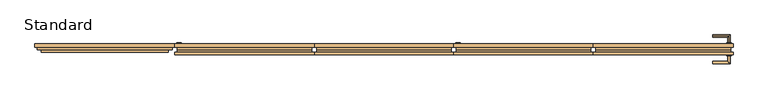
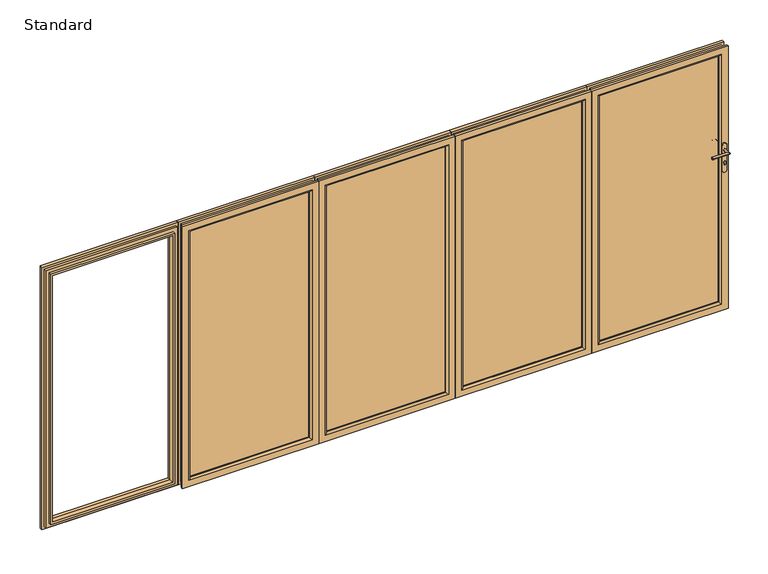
"""IFC4 building model written with IfcOpenShell, lengths in millimetres: door geometry, SMARTS_Visofold1000 : Standard."""

from ifc_helpers import new_model, si_unit, point, frame, frame_2d, origin, place, context, project, spatial, polyline, circle_curve, ellipse_curve, trimmed, segment, composite_curve, outline, extrude, faceted_brep, source, transform, mapped, element, save
from ifc_brep_helpers import plane_surface, cylinder_surface, advanced_brep


def standard_bf076061(model_context):
    return source(origin(), model_context, "Body", "SolidModel", [
        advanced_brep(
        [(2430.0, 75.0, 1232.5996413), (2430.0, 75.0, 1215.5996413), (2430.0, 130.0, 1232.5996413), (2430.0, 130.0, 1215.5996413), (2315.0, 130.0, 1232.5996413), (2315.0, 130.0, 1215.5996413)],
        [
            (0, 1, circle_curve(frame((2430.0, 75.0, 1224.0996413), z_axis=(0.0, -1.0, 0.0), x_axis=(0.0, 0.0, -1.0)), 8.5)),
            (1, 0, circle_curve(frame((2430.0, 75.0, 1224.0996413), z_axis=(0.0, -1.0, 0.0), x_axis=(0.0, 0.0, -1.0)), 8.5)),
            (0, 2),
            (2, 3, ellipse_curve(frame((2430.0, 130.0, 1224.0996413), z_axis=(0.7071067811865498, -0.7071067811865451, 0.0), x_axis=(-0.707106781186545, -0.70710678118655, 0.0)), 12.0208153, 8.5)),
            (3, 1),
            (3, 2, ellipse_curve(frame((2430.0, 130.0, 1224.0996413), z_axis=(0.7071067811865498, -0.7071067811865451, 0.0), x_axis=(-0.707106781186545, -0.70710678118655, 0.0)), 12.0208153, 8.5)),
            (4, 5, circle_curve(frame((2315.0, 130.0, 1224.0996413), z_axis=(-1.0, 0.0, 0.0), x_axis=(0.0, 0.0, -1.0)), 8.5)),
            (5, 4, circle_curve(frame((2315.0, 130.0, 1224.0996413), z_axis=(-1.0, 0.0, 0.0), x_axis=(0.0, 0.0, -1.0)), 8.5)),
            (2, 4),
            (5, 3),
        ],
        [
            plane_surface(frame((2430.0, 75.0, 1224.0996413), z_axis=(0.0, -1.0, 0.0), x_axis=(0.0, 0.0, -1.0))),
            cylinder_surface(frame((2430.0, 75.0, 1224.0996413), z_axis=(0.0, -1.0, 0.0), x_axis=(0.0, 0.0, -1.0)), 8.5),
            plane_surface(frame((2315.0, 130.0, 1224.0996413), z_axis=(-1.0, 0.0, 0.0), x_axis=(0.0, 0.0, -1.0))),
            cylinder_surface(frame((2430.0, 130.0, 1224.0996413), z_axis=(1.0, 0.0, 0.0), x_axis=(0.0, 0.0, -1.0)), 8.5),
        ],
        [
            (0, [[1, 2]]),
            (1, [[3, 4, 5, -1]]),
            (1, [[-5, 6, -3, -2]]),
            (2, [[7, 8]]),
            (3, [[9, -8, 10, -4]]),
            (3, [[-10, -7, -9, -6]]),
        ],
    ),
        extrude(outline(composite_curve([segment(polyline([(1258.0996413, 2414.0), (1070.0996413, 2414.0)]), True, "CONTINUOUS"), segment(trimmed(circle_curve(frame_2d((1070.0996413, 2430.0)), 16.0), [point((1070.0996413, 2414.0))], [point((1070.0996413, 2446.0))], False, "CARTESIAN"), True, "CONTINUOUS"), segment(polyline([(1070.0996413, 2446.0), (1258.0996413, 2446.0)]), True, "CONTINUOUS"), segment(trimmed(circle_curve(frame_2d((1258.0996413, 2430.0)), 16.0), [point((1258.0996413, 2446.0))], [point((1258.0996413, 2414.0))], False, "CARTESIAN"), True, "CONTINUOUS")], self_intersect=False)), frame((0.0, 75.0, 0.0), z_axis=(0.0, 1.0, 0.0), x_axis=(0.0, 0.0, 1.0)), (0.0, 0.0, 1.0), 10.0),
        advanced_brep(
        [(2421.5, 0.0, 1224.0996413), (2438.5, 0.0, 1224.0996413), (2438.5, -63.5, 1224.0996413), (2421.5, -46.5, 1224.0996413), (2315.0, -46.5, 1224.0996413), (2315.0, -63.5, 1224.0996413)],
        [
            (0, 1, circle_curve(frame((2430.0, 0.0, 1224.0996413), z_axis=(0.0, 1.0, 0.0), x_axis=(1.0, 0.0, 0.0)), 8.5)),
            (1, 0, circle_curve(frame((2430.0, 0.0, 1224.0996413), z_axis=(0.0, 1.0, 0.0), x_axis=(1.0, 0.0, 0.0)), 8.5)),
            (1, 2),
            (2, 3, ellipse_curve(frame((2430.0, -55.0, 1224.0996413), z_axis=(0.7071067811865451, 0.7071067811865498, 0.0), x_axis=(-0.7071067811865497, 0.7071067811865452, 0.0)), 12.0208153, 8.5)),
            (3, 0),
            (3, 2, ellipse_curve(frame((2430.0, -55.0, 1224.0996413), z_axis=(0.7071067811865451, 0.7071067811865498, 0.0), x_axis=(-0.7071067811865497, 0.7071067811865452, 0.0)), 12.0208153, 8.5)),
            (4, 5, circle_curve(frame((2315.0, -55.0, 1224.0996413), z_axis=(-1.0, 0.0, 0.0), x_axis=(0.0, -1.0, 0.0)), 8.5)),
            (5, 4, circle_curve(frame((2315.0, -55.0, 1224.0996413), z_axis=(-1.0, 0.0, 0.0), x_axis=(0.0, -1.0, 0.0)), 8.5)),
            (2, 5),
            (4, 3),
        ],
        [
            plane_surface(frame((2430.0, 0.0, 1224.0996413), z_axis=(0.0, 1.0, 0.0), x_axis=(0.0, 0.0, -1.0))),
            cylinder_surface(frame((2430.0, 0.0, 1224.0996413), z_axis=(0.0, 1.0, 0.0), x_axis=(1.0, 0.0, 0.0)), 8.5),
            plane_surface(frame((2315.0, -55.0, 1224.0996413), z_axis=(-1.0, 0.0, 0.0), x_axis=(0.0, 0.0, -1.0))),
            cylinder_surface(frame((2430.0, -55.0, 1224.0996413), z_axis=(1.0, 0.0, 0.0), x_axis=(0.0, -1.0, 0.0)), 8.5),
        ],
        [
            (0, [[1, 2]]),
            (1, [[3, 4, 5, -2]]),
            (1, [[-5, 6, -3, -1]]),
            (2, [[7, 8]]),
            (3, [[9, -7, 10, -4]]),
            (3, [[-10, -8, -9, -6]]),
        ],
    ),
        extrude(outline(composite_curve([segment(polyline([(1258.0996413, 2414.0), (1070.0996413, 2414.0)]), True, "CONTINUOUS"), segment(trimmed(circle_curve(frame_2d((1070.0996413, 2430.0)), 16.0), [point((1070.0996413, 2414.0))], [point((1070.0996413, 2446.0))], False, "CARTESIAN"), True, "CONTINUOUS"), segment(polyline([(1070.0996413, 2446.0), (1258.0996413, 2446.0)]), True, "CONTINUOUS"), segment(trimmed(circle_curve(frame_2d((1258.0996413, 2430.0)), 16.0), [point((1258.0996413, 2446.0))], [point((1258.0996413, 2414.0))], False, "CARTESIAN"), True, "CONTINUOUS")], self_intersect=False)), frame((0.0, -10.0, 0.0), z_axis=(0.0, 1.0, 0.0), x_axis=(0.0, 0.0, 1.0)), (0.0, 0.0, 1.0), 10.0),
        extrude(outline(composite_curve([segment(polyline([(1125.1769586, 2425.0106229), (1117.5996413, 2425.0106229)]), True, "CONTINUOUS"), segment(trimmed(circle_curve(frame_2d((1117.5996413, 2430.0106229)), 5.0), [point((1117.5996413, 2425.0106229))], [point((1117.5996413, 2435.0106229))], False, "CARTESIAN"), True, "CONTINUOUS"), segment(polyline([(1117.5996413, 2435.0106229), (1125.27562, 2435.0106229)]), True, "CONTINUOUS"), segment(trimmed(circle_curve(frame_2d((1132.0996413, 2429.9428094)), 8.5), [point((1125.27562, 2435.0106229))], [point((1125.1769586, 2425.0106229))], False, "CARTESIAN"), True, "CONTINUOUS")], self_intersect=False)), frame((0.0, 85.0, 0.0), z_axis=(0.0, 1.0, 0.0), x_axis=(0.0, 0.0, 1.0)), (0.0, 0.0, 1.0), 2.0),
        extrude(outline(composite_curve([segment(polyline([(1125.1769586, 2425.0106229), (1117.5996413, 2425.0106229)]), True, "CONTINUOUS"), segment(trimmed(circle_curve(frame_2d((1117.5996413, 2430.0106229)), 5.0), [point((1117.5996413, 2425.0106229))], [point((1117.5996413, 2435.0106229))], False, "CARTESIAN"), True, "CONTINUOUS"), segment(polyline([(1117.5996413, 2435.0106229), (1125.27562, 2435.0106229)]), True, "CONTINUOUS"), segment(trimmed(circle_curve(frame_2d((1132.0996413, 2429.9428094)), 8.5), [point((1125.27562, 2435.0106229))], [point((1125.1769586, 2425.0106229))], False, "CARTESIAN"), True, "CONTINUOUS")], self_intersect=False)), frame((0.0, -12.0, 0.0), z_axis=(0.0, 1.0, 0.0), x_axis=(0.0, 0.0, 1.0)), (0.0, 0.0, 1.0), 2.0),
        extrude(outline(polyline([(45.0, 2415.0), (1955.0, 2415.0), (1955.0, 1521.0), (45.0, 1521.0), (45.0, 2415.0)]), holes=[polyline([(1939.5, 2399.5), (60.5, 2399.5), (60.5, 1536.5), (1939.5, 1536.5), (1939.5, 2399.5)])]), frame((0.0, 17.4, 0.0), z_axis=(0.0, 1.0, 0.0), x_axis=(0.0, 0.0, 1.0)), (0.0, 0.0, 1.0), 35.0),
        faceted_brep([(2460.0, 74.4, 0.0), (2460.0, 74.4, 2000.0), (2460.0, 52.4, 2000.0), (2460.0, 52.4, 0.0), (2399.5, 52.4, 60.5), (2399.5, 52.4, 1939.5), (2399.5, 74.4, 1939.5), (2399.5, 74.4, 60.5), (1476.0, 74.4, 2000.0), (1476.0, 52.4, 2000.0), (1536.5, 52.4, 1939.5), (1536.5, 74.4, 1939.5), (1476.0, 74.4, 0.0), (1476.0, 52.4, 0.0), (1536.5, 52.4, 60.5), (1536.5, 74.4, 60.5), (2442.1308519, 34.8, 17.8691481), (2442.1308519, 34.8, 1982.1308519), (1493.8691481, 34.8, 1982.1308519), (1493.8691481, 34.8, 17.8691481), (2415.0, 34.8, 1955.0), (2415.0, 34.8, 45.0), (1521.0, 34.8, 45.0), (1521.0, 34.8, 1955.0), (2442.1308519, 52.4, 17.8691481), (2442.1308519, 52.4, 1982.1308519), (2415.0, 52.4, 1955.0), (2415.0, 52.4, 45.0), (1493.8691481, 52.4, 1982.1308519), (1521.0, 52.4, 1955.0), (1493.8691481, 52.4, 17.8691481), (1521.0, 52.4, 45.0)], [[[0, 1, 2, 3]], [[4, 5, 6, 7]], [[1, 8, 9, 2]], [[5, 10, 11, 6]], [[8, 12, 13, 9]], [[10, 14, 15, 11]], [[12, 0, 3, 13]], [[1, 0, 12, 8], [7, 6, 11, 15]], [[14, 4, 7, 15]], [[16, 17, 18, 19], [20, 21, 22, 23]], [[24, 25, 17, 16]], [[21, 20, 26, 27]], [[25, 28, 18, 17]], [[20, 23, 29, 26]], [[28, 30, 19, 18]], [[23, 22, 31, 29]], [[30, 24, 16, 19]], [[3, 2, 9, 13], [25, 24, 30, 28]], [[27, 26, 29, 31], [5, 4, 14, 10]], [[22, 21, 27, 31]]]),
        advanced_brep(
        [(2399.5, 13.3, 60.5), (2399.5, 13.3, 1939.5), (2399.5, 17.4, 1939.5), (2399.5, 17.4, 60.5), (2460.0, 17.4, 0.0), (2460.0, 17.4, 2000.0), (2460.0, 0.0, 2000.0), (2460.0, 0.0, 0.0), (1536.5, 13.3, 1939.5), (1536.5, 17.4, 1939.5), (1476.0, 17.4, 2000.0), (1476.0, 0.0, 2000.0), (1536.5, 13.3, 60.5), (1536.5, 17.4, 60.5), (1476.0, 17.4, 0.0), (1476.0, 0.0, 0.0), (2412.8, 0.0, 1952.8), (2412.8, 0.0, 47.2), (1523.2, 0.0, 47.2), (1523.2, 0.0, 1952.8), (2442.1308519, 34.8, 17.8691481), (2442.1308519, 34.8, 1982.1308519), (2442.1308519, 17.4, 1982.1308519), (2442.1308519, 17.4, 17.8691481), (1493.8691481, 34.8, 1982.1308519), (1493.8691481, 17.4, 1982.1308519), (1493.8691481, 34.8, 17.8691481), (1493.8691481, 17.4, 17.8691481), (2415.0, 17.4, 45.0), (2415.0, 17.4, 1955.0), (2415.0, 34.8, 1955.0), (2415.0, 34.8, 45.0), (1521.0, 17.4, 1955.0), (1521.0, 34.8, 1955.0), (1521.0, 17.4, 45.0), (1521.0, 34.8, 45.0)],
        [
            (0, 1),
            (1, 2),
            (2, 3),
            (3, 0),
            (4, 5),
            (5, 6),
            (6, 7),
            (7, 4),
            (1, 8),
            (8, 9),
            (9, 2),
            (5, 10),
            (10, 11),
            (11, 6),
            (8, 12),
            (12, 13),
            (13, 9),
            (10, 14),
            (14, 15),
            (15, 11),
            (12, 0),
            (3, 13),
            (15, 7),
            (16, 17),
            (17, 18),
            (18, 19),
            (19, 16),
            (14, 4),
            (16, 1, ellipse_curve(frame((2412.8, 13.3, 1952.8), z_axis=(0.7071067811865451, 0.0, -0.7071067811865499), x_axis=(-0.70710678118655, 0.0, -0.7071067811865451)), 18.8090404, 13.3)),
            (0, 17, ellipse_curve(frame((2412.8, 13.3, 47.2), z_axis=(0.70710678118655, 0.0, 0.707106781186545), x_axis=(0.707106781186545, 0.0, -0.7071067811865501)), 18.8090404, 13.3)),
            (19, 8, ellipse_curve(frame((1523.2, 13.3, 1952.8), z_axis=(0.70710678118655, 0.0, 0.707106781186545), x_axis=(0.707106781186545, 0.0, -0.7071067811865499)), 18.8090404, 13.3)),
            (18, 12, ellipse_curve(frame((1523.2, 13.3, 47.2), z_axis=(-0.7071067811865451, 0.0, 0.7071067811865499), x_axis=(0.70710678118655, 0.0, 0.7071067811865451)), 18.8090404, 13.3)),
            (20, 21),
            (21, 22),
            (22, 23),
            (23, 20),
            (21, 24),
            (24, 25),
            (25, 22),
            (24, 26),
            (26, 27),
            (27, 25),
            (27, 23),
            (26, 20),
            (28, 29),
            (29, 30),
            (30, 31),
            (31, 28),
            (29, 32),
            (32, 33),
            (33, 30),
            (32, 34),
            (34, 35),
            (35, 33),
            (34, 28),
            (31, 35),
        ],
        [
            plane_surface(frame((2399.5, 17.4, 60.5), z_axis=(-1.0, 0.0, 0.0), x_axis=(0.0, 0.0, 1.0))),
            plane_surface(frame((2460.0, 0.0, 0.0), z_axis=(1.0, 0.0, 0.0), x_axis=(0.0, 0.0, 1.0))),
            plane_surface(frame((2399.5, 17.4, 1939.5), z_axis=(0.0, 0.0, -1.0), x_axis=(-1.0, 0.0, 0.0))),
            plane_surface(frame((2460.0, 0.0, 2000.0), z_axis=(0.0, 0.0, 1.0), x_axis=(-1.0, 0.0, 0.0))),
            plane_surface(frame((1536.5, 17.4, 1939.5), z_axis=(1.0, 0.0, 0.0), x_axis=(0.0, 0.0, -1.0))),
            plane_surface(frame((1476.0, 0.0, 2000.0), z_axis=(-1.0, 0.0, 0.0), x_axis=(0.0, 0.0, -1.0))),
            plane_surface(frame((1536.5, 17.4, 60.5), z_axis=(0.0, 0.0, 1.0), x_axis=(1.0, 0.0, 0.0))),
            plane_surface(frame((1523.2, 0.0, 47.2), z_axis=(0.0, -1.0, 0.0), x_axis=(1.0, 0.0, 0.0))),
            plane_surface(frame((1476.0, 0.0, 0.0), z_axis=(0.0, 0.0, -1.0), x_axis=(1.0, 0.0, 0.0))),
            cylinder_surface(frame((2412.8, 13.3, 0.0), z_axis=(0.0, 0.0, -1.0), x_axis=(0.0, 1.0, 0.0)), 13.3),
            cylinder_surface(frame((2460.0, 13.3, 1952.8), z_axis=(1.0, 0.0, 0.0), x_axis=(0.0, 1.0, 0.0)), 13.3),
            cylinder_surface(frame((1523.2, 13.3, 2000.0), z_axis=(0.0, 0.0, 1.0), x_axis=(0.0, 1.0, 0.0)), 13.3),
            cylinder_surface(frame((1476.0, 13.3, 47.2), z_axis=(-1.0, 0.0, 0.0), x_axis=(0.0, 1.0, 0.0)), 13.3),
            plane_surface(frame((2442.1308519, 17.4, 17.8691481), z_axis=(1.0, 0.0, 0.0), x_axis=(0.0, 0.0, 1.0))),
            plane_surface(frame((2442.1308519, 17.4, 1982.1308519), z_axis=(0.0, 0.0, 1.0), x_axis=(-1.0, 0.0, 0.0))),
            plane_surface(frame((1493.8691481, 17.4, 1982.1308519), z_axis=(-1.0, 0.0, 0.0), x_axis=(0.0, 0.0, -1.0))),
            plane_surface(frame((1476.0, 17.4, 0.0), z_axis=(0.0, 1.0, 0.0), x_axis=(1.0, 0.0, 0.0))),
            plane_surface(frame((1493.8691481, 17.4, 17.8691481), z_axis=(0.0, 0.0, -1.0), x_axis=(1.0, 0.0, 0.0))),
            plane_surface(frame((2415.0, 34.8, 45.0), z_axis=(-1.0, 0.0, 0.0), x_axis=(0.0, 0.0, 1.0))),
            plane_surface(frame((2415.0, 34.8, 1955.0), z_axis=(0.0, 0.0, -1.0), x_axis=(-1.0, 0.0, 0.0))),
            plane_surface(frame((1521.0, 34.8, 1955.0), z_axis=(1.0, 0.0, 0.0), x_axis=(0.0, 0.0, -1.0))),
            plane_surface(frame((1521.0, 34.8, 45.0), z_axis=(0.0, 0.0, 1.0), x_axis=(1.0, 0.0, 0.0))),
            plane_surface(frame((1521.0, 17.4, 45.0), z_axis=(0.0, 1.0, 0.0), x_axis=(1.0, 0.0, 0.0))),
            plane_surface(frame((1493.8691481, 34.8, 17.8691481), z_axis=(0.0, 1.0, 0.0), x_axis=(1.0, 0.0, 0.0))),
        ],
        [
            (0, [[1, 2, 3, 4]]),
            (1, [[5, 6, 7, 8]]),
            (2, [[9, 10, 11, -2]]),
            (3, [[12, 13, 14, -6]]),
            (4, [[15, 16, 17, -10]]),
            (5, [[18, 19, 20, -13]]),
            (6, [[21, -4, 22, -16]]),
            (7, [[-7, -14, -20, 23], [24, 25, 26, 27]]),
            (8, [[28, -8, -23, -19]]),
            (9, [[-24, 29, -1, 30]]),
            (10, [[-27, 31, -9, -29]]),
            (11, [[-26, 32, -15, -31]]),
            (12, [[-25, -30, -21, -32]]),
            (13, [[33, 34, 35, 36]]),
            (14, [[37, 38, 39, -34]]),
            (15, [[40, 41, 42, -38]]),
            (16, [[-5, -28, -18, -12], [-35, -39, -42, 43]]),
            (17, [[44, -36, -43, -41]]),
            (18, [[45, 46, 47, 48]]),
            (19, [[49, 50, 51, -46]]),
            (20, [[52, 53, 54, -50]]),
            (21, [[55, -48, 56, -53]]),
            (22, [[-45, -55, -52, -49], [-3, -11, -17, -22]]),
            (23, [[-33, -44, -40, -37], [-47, -51, -54, -56]]),
        ],
    ),
        extrude(outline(polyline([(2399.5, 50.1484783), (2399.5, 21.4), (1536.5, 21.4), (1536.5, 50.1484783), (2399.5, 50.1484783)])), frame((0.0, 0.0, 60.5), z_axis=(0.0, 0.0, 1.0), x_axis=(1.0, 0.0, 0.0)), (0.0, 0.0, 1.0), 1879.0),
        extrude(outline(composite_curve([segment(trimmed(circle_curve(frame_2d((1228.0996413, 522.0)), 16.0), [point((1228.0996413, 538.0))], [point((1228.0996413, 506.0))], False, "CARTESIAN"), True, "CONTINUOUS"), segment(polyline([(1228.0996413, 506.0), (1040.0996413, 506.0)]), True, "CONTINUOUS"), segment(trimmed(circle_curve(frame_2d((1040.0996413, 522.0)), 16.0), [point((1040.0996413, 506.0))], [point((1040.0996413, 538.0))], False, "CARTESIAN"), True, "CONTINUOUS"), segment(polyline([(1040.0996413, 538.0), (1228.0996413, 538.0)]), True, "CONTINUOUS")], self_intersect=False)), frame((0.0, 75.0, 0.0), z_axis=(0.0, 1.0, 0.0), x_axis=(0.0, 0.0, 1.0)), (0.0, 0.0, 1.0), 10.0),
        extrude(outline(polyline([(45.0, 537.0), (45.0, 1431.0), (1955.0, 1431.0), (1955.0, 537.0), (45.0, 537.0)]), holes=[polyline([(1939.5, 552.5), (1939.5, 1415.5), (60.5, 1415.5), (60.5, 552.5), (1939.5, 552.5)])]), frame((0.0, 17.4, 0.0), z_axis=(0.0, 1.0, 0.0), x_axis=(0.0, 0.0, 1.0)), (0.0, 0.0, 1.0), 35.0),
        faceted_brep([(492.0, 74.4, 0.0), (492.0, 52.4, 0.0), (492.0, 52.4, 2000.0), (492.0, 74.4, 2000.0), (552.5, 52.4, 60.5), (552.5, 74.4, 60.5), (552.5, 74.4, 1939.5), (552.5, 52.4, 1939.5), (1476.0, 52.4, 2000.0), (1476.0, 74.4, 2000.0), (1415.5, 74.4, 1939.5), (1415.5, 52.4, 1939.5), (1476.0, 52.4, 0.0), (1476.0, 74.4, 0.0), (1415.5, 74.4, 60.5), (1415.5, 52.4, 60.5), (509.8691481, 34.8, 17.8691481), (1458.1308519, 34.8, 17.8691481), (1458.1308519, 34.8, 1982.1308519), (509.8691481, 34.8, 1982.1308519), (537.0, 34.8, 1955.0), (1431.0, 34.8, 1955.0), (1431.0, 34.8, 45.0), (537.0, 34.8, 45.0), (509.8691481, 52.4, 17.8691481), (509.8691481, 52.4, 1982.1308519), (537.0, 52.4, 45.0), (537.0, 52.4, 1955.0), (1458.1308519, 52.4, 1982.1308519), (1431.0, 52.4, 1955.0), (1458.1308519, 52.4, 17.8691481), (1431.0, 52.4, 45.0)], [[[0, 1, 2, 3]], [[4, 5, 6, 7]], [[3, 2, 8, 9]], [[7, 6, 10, 11]], [[9, 8, 12, 13]], [[11, 10, 14, 15]], [[13, 12, 1, 0]], [[3, 9, 13, 0], [5, 14, 10, 6]], [[15, 14, 5, 4]], [[16, 17, 18, 19], [20, 21, 22, 23]], [[24, 16, 19, 25]], [[23, 26, 27, 20]], [[25, 19, 18, 28]], [[20, 27, 29, 21]], [[28, 18, 17, 30]], [[21, 29, 31, 22]], [[30, 17, 16, 24]], [[1, 12, 8, 2], [25, 28, 30, 24]], [[26, 31, 29, 27], [7, 11, 15, 4]], [[22, 31, 26, 23]]]),
        advanced_brep(
        [(552.5, 13.3, 60.5), (552.5, 17.4, 60.5), (552.5, 17.4, 1939.5), (552.5, 13.3, 1939.5), (492.0, 17.4, 0.0), (492.0, 0.0, 0.0), (492.0, 0.0, 2000.0), (492.0, 17.4, 2000.0), (1415.5, 17.4, 1939.5), (1415.5, 13.3, 1939.5), (1476.0, 0.0, 2000.0), (1476.0, 17.4, 2000.0), (1415.5, 17.4, 60.5), (1415.5, 13.3, 60.5), (1476.0, 0.0, 0.0), (1476.0, 17.4, 0.0), (539.2, 0.0, 1952.8), (1428.8, 0.0, 1952.8), (1428.8, 0.0, 47.2), (539.2, 0.0, 47.2), (509.8691481, 34.8, 17.8691481), (509.8691481, 17.4, 17.8691481), (509.8691481, 17.4, 1982.1308519), (509.8691481, 34.8, 1982.1308519), (1458.1308519, 17.4, 1982.1308519), (1458.1308519, 34.8, 1982.1308519), (1458.1308519, 17.4, 17.8691481), (1458.1308519, 34.8, 17.8691481), (537.0, 17.4, 45.0), (537.0, 34.8, 45.0), (537.0, 34.8, 1955.0), (537.0, 17.4, 1955.0), (1431.0, 34.8, 1955.0), (1431.0, 17.4, 1955.0), (1431.0, 34.8, 45.0), (1431.0, 17.4, 45.0)],
        [
            (0, 1),
            (1, 2),
            (2, 3),
            (3, 0),
            (4, 5),
            (5, 6),
            (6, 7),
            (7, 4),
            (2, 8),
            (8, 9),
            (9, 3),
            (6, 10),
            (10, 11),
            (11, 7),
            (8, 12),
            (12, 13),
            (13, 9),
            (10, 14),
            (14, 15),
            (15, 11),
            (12, 1),
            (0, 13),
            (5, 14),
            (16, 17),
            (17, 18),
            (18, 19),
            (19, 16),
            (4, 15),
            (19, 0, ellipse_curve(frame((539.2, 13.3, 47.2), z_axis=(-0.70710678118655, 0.0, 0.707106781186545), x_axis=(-0.707106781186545, 0.0, -0.7071067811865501)), 18.8090404, 13.3)),
            (3, 16, ellipse_curve(frame((539.2, 13.3, 1952.8), z_axis=(-0.7071067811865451, 0.0, -0.7071067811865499), x_axis=(0.70710678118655, 0.0, -0.7071067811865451)), 18.8090404, 13.3)),
            (9, 17, ellipse_curve(frame((1428.8, 13.3, 1952.8), z_axis=(-0.70710678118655, 0.0, 0.707106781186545), x_axis=(-0.707106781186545, 0.0, -0.7071067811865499)), 18.8090404, 13.3)),
            (13, 18, ellipse_curve(frame((1428.8, 13.3, 47.2), z_axis=(0.7071067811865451, 0.0, 0.7071067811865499), x_axis=(-0.70710678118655, 0.0, 0.7071067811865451)), 18.8090404, 13.3)),
            (20, 21),
            (21, 22),
            (22, 23),
            (23, 20),
            (22, 24),
            (24, 25),
            (25, 23),
            (24, 26),
            (26, 27),
            (27, 25),
            (21, 26),
            (20, 27),
            (28, 29),
            (29, 30),
            (30, 31),
            (31, 28),
            (30, 32),
            (32, 33),
            (33, 31),
            (32, 34),
            (34, 35),
            (35, 33),
            (34, 29),
            (28, 35),
        ],
        [
            plane_surface(frame((552.5, 17.4, 60.5), z_axis=(1.0, 0.0, 0.0), x_axis=(0.0, 0.0, 1.0))),
            plane_surface(frame((492.0, 0.0, 0.0), z_axis=(-1.0, 0.0, 0.0), x_axis=(0.0, 0.0, 1.0))),
            plane_surface(frame((552.5, 17.4, 1939.5), z_axis=(0.0, 0.0, -1.0), x_axis=(1.0, 0.0, 0.0))),
            plane_surface(frame((492.0, 0.0, 2000.0), z_axis=(0.0, 0.0, 1.0), x_axis=(1.0, 0.0, 0.0))),
            plane_surface(frame((1415.5, 17.4, 1939.5), z_axis=(-1.0, 0.0, 0.0), x_axis=(0.0, 0.0, -1.0))),
            plane_surface(frame((1476.0, 0.0, 2000.0), z_axis=(1.0, 0.0, 0.0), x_axis=(0.0, 0.0, -1.0))),
            plane_surface(frame((1415.5, 17.4, 60.5), z_axis=(0.0, 0.0, 1.0), x_axis=(-1.0, 0.0, 0.0))),
            plane_surface(frame((1428.8, 0.0, 47.2), z_axis=(0.0, -1.0, 0.0), x_axis=(-1.0, 0.0, 0.0))),
            plane_surface(frame((1476.0, 0.0, 0.0), z_axis=(0.0, 0.0, -1.0), x_axis=(-1.0, 0.0, 0.0))),
            cylinder_surface(frame((539.2, 13.3, 0.0), z_axis=(0.0, 0.0, -1.0), x_axis=(0.0, 1.0, 0.0)), 13.3),
            cylinder_surface(frame((492.0, 13.3, 1952.8), z_axis=(-1.0, 0.0, 0.0), x_axis=(0.0, 1.0, 0.0)), 13.3),
            cylinder_surface(frame((1428.8, 13.3, 2000.0), z_axis=(0.0, 0.0, 1.0), x_axis=(0.0, 1.0, 0.0)), 13.3),
            cylinder_surface(frame((1476.0, 13.3, 47.2), z_axis=(1.0, 0.0, 0.0), x_axis=(0.0, 1.0, 0.0)), 13.3),
            plane_surface(frame((509.8691481, 17.4, 17.8691481), z_axis=(-1.0, 0.0, 0.0), x_axis=(0.0, 0.0, 1.0))),
            plane_surface(frame((509.8691481, 17.4, 1982.1308519), z_axis=(0.0, 0.0, 1.0), x_axis=(1.0, 0.0, 0.0))),
            plane_surface(frame((1458.1308519, 17.4, 1982.1308519), z_axis=(1.0, 0.0, 0.0), x_axis=(0.0, 0.0, -1.0))),
            plane_surface(frame((1476.0, 17.4, 0.0), z_axis=(0.0, 1.0, 0.0), x_axis=(-1.0, 0.0, 0.0))),
            plane_surface(frame((1458.1308519, 17.4, 17.8691481), z_axis=(0.0, 0.0, -1.0), x_axis=(-1.0, 0.0, 0.0))),
            plane_surface(frame((537.0, 34.8, 45.0), z_axis=(1.0, 0.0, 0.0), x_axis=(0.0, 0.0, 1.0))),
            plane_surface(frame((537.0, 34.8, 1955.0), z_axis=(0.0, 0.0, -1.0), x_axis=(1.0, 0.0, 0.0))),
            plane_surface(frame((1431.0, 34.8, 1955.0), z_axis=(-1.0, 0.0, 0.0), x_axis=(0.0, 0.0, -1.0))),
            plane_surface(frame((1431.0, 34.8, 45.0), z_axis=(0.0, 0.0, 1.0), x_axis=(-1.0, 0.0, 0.0))),
            plane_surface(frame((1431.0, 17.4, 45.0), z_axis=(0.0, 1.0, 0.0), x_axis=(-1.0, 0.0, 0.0))),
            plane_surface(frame((1458.1308519, 34.8, 17.8691481), z_axis=(0.0, 1.0, 0.0), x_axis=(-1.0, 0.0, 0.0))),
        ],
        [
            (0, [[1, 2, 3, 4]]),
            (1, [[5, 6, 7, 8]]),
            (2, [[-3, 9, 10, 11]]),
            (3, [[-7, 12, 13, 14]]),
            (4, [[-10, 15, 16, 17]]),
            (5, [[-13, 18, 19, 20]]),
            (6, [[-16, 21, -1, 22]]),
            (7, [[23, -18, -12, -6], [24, 25, 26, 27]]),
            (8, [[-19, -23, -5, 28]]),
            (9, [[29, -4, 30, -27]]),
            (10, [[-30, -11, 31, -24]]),
            (11, [[-31, -17, 32, -25]]),
            (12, [[-32, -22, -29, -26]]),
            (13, [[33, 34, 35, 36]]),
            (14, [[-35, 37, 38, 39]]),
            (15, [[-38, 40, 41, 42]]),
            (16, [[-14, -20, -28, -8], [43, -40, -37, -34]]),
            (17, [[-41, -43, -33, 44]]),
            (18, [[45, 46, 47, 48]]),
            (19, [[-47, 49, 50, 51]]),
            (20, [[-50, 52, 53, 54]]),
            (21, [[-53, 55, -45, 56]]),
            (22, [[-51, -54, -56, -48], [-21, -15, -9, -2]]),
            (23, [[-39, -42, -44, -36], [-55, -52, -49, -46]]),
        ],
    ),
        extrude(outline(polyline([(552.5, 50.1484783), (1415.5, 50.1484783), (1415.5, 21.4), (552.5, 21.4), (552.5, 50.1484783)])), frame((0.0, 0.0, 60.5), z_axis=(0.0, 0.0, 1.0), x_axis=(1.0, 0.0, 0.0)), (0.0, 0.0, 1.0), 1879.0),
        extrude(outline(composite_curve([segment(trimmed(circle_curve(frame_2d((1228.0996413, -1446.0)), 16.0), [point((1228.0996413, -1430.0))], [point((1228.0996413, -1462.0))], False, "CARTESIAN"), True, "CONTINUOUS"), segment(polyline([(1228.0996413, -1462.0), (1040.0996413, -1462.0)]), True, "CONTINUOUS"), segment(trimmed(circle_curve(frame_2d((1040.0996413, -1446.0)), 16.0), [point((1040.0996413, -1462.0))], [point((1040.0996413, -1430.0))], False, "CARTESIAN"), True, "CONTINUOUS"), segment(polyline([(1040.0996413, -1430.0), (1228.0996413, -1430.0)]), True, "CONTINUOUS")], self_intersect=False)), frame((0.0, 75.0, 0.0), z_axis=(0.0, 1.0, 0.0), x_axis=(0.0, 0.0, 1.0)), (0.0, 0.0, 1.0), 10.0),
        extrude(outline(polyline([(45.0, -1431.0), (45.0, -537.0), (1955.0, -537.0), (1955.0, -1431.0), (45.0, -1431.0)]), holes=[polyline([(1939.5, -1415.5), (1939.5, -552.5), (60.5, -552.5), (60.5, -1415.5), (1939.5, -1415.5)])]), frame((0.0, 17.4, 0.0), z_axis=(0.0, 1.0, 0.0), x_axis=(0.0, 0.0, 1.0)), (0.0, 0.0, 1.0), 35.0),
        faceted_brep([(-1476.0, 74.4, 0.0), (-1476.0, 52.4, 0.0), (-1476.0, 52.4, 2000.0), (-1476.0, 74.4, 2000.0), (-1415.5, 52.4, 60.5), (-1415.5, 74.4, 60.5), (-1415.5, 74.4, 1939.5), (-1415.5, 52.4, 1939.5), (-492.0, 52.4, 2000.0), (-492.0, 74.4, 2000.0), (-552.5, 74.4, 1939.5), (-552.5, 52.4, 1939.5), (-492.0, 52.4, 0.0), (-492.0, 74.4, 0.0), (-552.5, 74.4, 60.5), (-552.5, 52.4, 60.5), (-1458.1308519, 34.8, 17.8691481), (-509.8691481, 34.8, 17.8691481), (-509.8691481, 34.8, 1982.1308519), (-1458.1308519, 34.8, 1982.1308519), (-1431.0, 34.8, 1955.0), (-537.0, 34.8, 1955.0), (-537.0, 34.8, 45.0), (-1431.0, 34.8, 45.0), (-1458.1308519, 52.4, 17.8691481), (-1458.1308519, 52.4, 1982.1308519), (-1431.0, 52.4, 45.0), (-1431.0, 52.4, 1955.0), (-509.8691481, 52.4, 1982.1308519), (-537.0, 52.4, 1955.0), (-509.8691481, 52.4, 17.8691481), (-537.0, 52.4, 45.0)], [[[0, 1, 2, 3]], [[4, 5, 6, 7]], [[3, 2, 8, 9]], [[7, 6, 10, 11]], [[9, 8, 12, 13]], [[11, 10, 14, 15]], [[13, 12, 1, 0]], [[3, 9, 13, 0], [5, 14, 10, 6]], [[15, 14, 5, 4]], [[16, 17, 18, 19], [20, 21, 22, 23]], [[24, 16, 19, 25]], [[23, 26, 27, 20]], [[25, 19, 18, 28]], [[20, 27, 29, 21]], [[28, 18, 17, 30]], [[21, 29, 31, 22]], [[30, 17, 16, 24]], [[1, 12, 8, 2], [25, 28, 30, 24]], [[26, 31, 29, 27], [7, 11, 15, 4]], [[22, 31, 26, 23]]]),
        advanced_brep(
        [(-1415.5, 13.3, 60.5), (-1415.5, 17.4, 60.5), (-1415.5, 17.4, 1939.5), (-1415.5, 13.3, 1939.5), (-1476.0, 17.4, 0.0), (-1476.0, 0.0, 0.0), (-1476.0, 0.0, 2000.0), (-1476.0, 17.4, 2000.0), (-552.5, 17.4, 1939.5), (-552.5, 13.3, 1939.5), (-492.0, 0.0, 2000.0), (-492.0, 17.4, 2000.0), (-552.5, 17.4, 60.5), (-552.5, 13.3, 60.5), (-492.0, 0.0, 0.0), (-492.0, 17.4, 0.0), (-1428.8, 0.0, 1952.8), (-539.2, 0.0, 1952.8), (-539.2, 0.0, 47.2), (-1428.8, 0.0, 47.2), (-1458.1308519, 34.8, 17.8691481), (-1458.1308519, 17.4, 17.8691481), (-1458.1308519, 17.4, 1982.1308519), (-1458.1308519, 34.8, 1982.1308519), (-509.8691481, 17.4, 1982.1308519), (-509.8691481, 34.8, 1982.1308519), (-509.8691481, 17.4, 17.8691481), (-509.8691481, 34.8, 17.8691481), (-1431.0, 17.4, 45.0), (-1431.0, 34.8, 45.0), (-1431.0, 34.8, 1955.0), (-1431.0, 17.4, 1955.0), (-537.0, 34.8, 1955.0), (-537.0, 17.4, 1955.0), (-537.0, 34.8, 45.0), (-537.0, 17.4, 45.0)],
        [
            (0, 1),
            (1, 2),
            (2, 3),
            (3, 0),
            (4, 5),
            (5, 6),
            (6, 7),
            (7, 4),
            (2, 8),
            (8, 9),
            (9, 3),
            (6, 10),
            (10, 11),
            (11, 7),
            (8, 12),
            (12, 13),
            (13, 9),
            (10, 14),
            (14, 15),
            (15, 11),
            (12, 1),
            (0, 13),
            (5, 14),
            (16, 17),
            (17, 18),
            (18, 19),
            (19, 16),
            (4, 15),
            (19, 0, ellipse_curve(frame((-1428.8, 13.3, 47.2), z_axis=(-0.70710678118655, 0.0, 0.707106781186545), x_axis=(-0.707106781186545, 0.0, -0.7071067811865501)), 18.8090404, 13.3)),
            (3, 16, ellipse_curve(frame((-1428.8, 13.3, 1952.8), z_axis=(-0.7071067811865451, 0.0, -0.7071067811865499), x_axis=(0.70710678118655, 0.0, -0.7071067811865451)), 18.8090404, 13.3)),
            (9, 17, ellipse_curve(frame((-539.2, 13.3, 1952.8), z_axis=(-0.70710678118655, 0.0, 0.707106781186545), x_axis=(-0.707106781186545, 0.0, -0.7071067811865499)), 18.8090404, 13.3)),
            (13, 18, ellipse_curve(frame((-539.2, 13.3, 47.2), z_axis=(0.7071067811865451, 0.0, 0.7071067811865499), x_axis=(-0.70710678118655, 0.0, 0.7071067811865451)), 18.8090404, 13.3)),
            (20, 21),
            (21, 22),
            (22, 23),
            (23, 20),
            (22, 24),
            (24, 25),
            (25, 23),
            (24, 26),
            (26, 27),
            (27, 25),
            (21, 26),
            (20, 27),
            (28, 29),
            (29, 30),
            (30, 31),
            (31, 28),
            (30, 32),
            (32, 33),
            (33, 31),
            (32, 34),
            (34, 35),
            (35, 33),
            (34, 29),
            (28, 35),
        ],
        [
            plane_surface(frame((-1415.5, 17.4, 60.5), z_axis=(1.0, 0.0, 0.0), x_axis=(0.0, 0.0, 1.0))),
            plane_surface(frame((-1476.0, 0.0, 0.0), z_axis=(-1.0, 0.0, 0.0), x_axis=(0.0, 0.0, 1.0))),
            plane_surface(frame((-1415.5, 17.4, 1939.5), z_axis=(0.0, 0.0, -1.0), x_axis=(1.0, 0.0, 0.0))),
            plane_surface(frame((-1476.0, 0.0, 2000.0), z_axis=(0.0, 0.0, 1.0), x_axis=(1.0, 0.0, 0.0))),
            plane_surface(frame((-552.5, 17.4, 1939.5), z_axis=(-1.0, 0.0, 0.0), x_axis=(0.0, 0.0, -1.0))),
            plane_surface(frame((-492.0, 0.0, 2000.0), z_axis=(1.0, 0.0, 0.0), x_axis=(0.0, 0.0, -1.0))),
            plane_surface(frame((-552.5, 17.4, 60.5), z_axis=(0.0, 0.0, 1.0), x_axis=(-1.0, 0.0, 0.0))),
            plane_surface(frame((-539.2, 0.0, 47.2), z_axis=(0.0, -1.0, 0.0), x_axis=(-1.0, 0.0, 0.0))),
            plane_surface(frame((-492.0, 0.0, 0.0), z_axis=(0.0, 0.0, -1.0), x_axis=(-1.0, 0.0, 0.0))),
            cylinder_surface(frame((-1428.8, 13.3, 0.0), z_axis=(0.0, 0.0, -1.0), x_axis=(0.0, 1.0, 0.0)), 13.3),
            cylinder_surface(frame((-1476.0, 13.3, 1952.8), z_axis=(-1.0, 0.0, 0.0), x_axis=(0.0, 1.0, 0.0)), 13.3),
            cylinder_surface(frame((-539.2, 13.3, 2000.0), z_axis=(0.0, 0.0, 1.0), x_axis=(0.0, 1.0, 0.0)), 13.3),
            cylinder_surface(frame((-492.0, 13.3, 47.2), z_axis=(1.0, 0.0, 0.0), x_axis=(0.0, 1.0, 0.0)), 13.3),
            plane_surface(frame((-1458.1308519, 17.4, 17.8691481), z_axis=(-1.0, 0.0, 0.0), x_axis=(0.0, 0.0, 1.0))),
            plane_surface(frame((-1458.1308519, 17.4, 1982.1308519), z_axis=(0.0, 0.0, 1.0), x_axis=(1.0, 0.0, 0.0))),
            plane_surface(frame((-509.8691481, 17.4, 1982.1308519), z_axis=(1.0, 0.0, 0.0), x_axis=(0.0, 0.0, -1.0))),
            plane_surface(frame((-492.0, 17.4, 0.0), z_axis=(0.0, 1.0, 0.0), x_axis=(-1.0, 0.0, 0.0))),
            plane_surface(frame((-509.8691481, 17.4, 17.8691481), z_axis=(0.0, 0.0, -1.0), x_axis=(-1.0, 0.0, 0.0))),
            plane_surface(frame((-1431.0, 34.8, 45.0), z_axis=(1.0, 0.0, 0.0), x_axis=(0.0, 0.0, 1.0))),
            plane_surface(frame((-1431.0, 34.8, 1955.0), z_axis=(0.0, 0.0, -1.0), x_axis=(1.0, 0.0, 0.0))),
            plane_surface(frame((-537.0, 34.8, 1955.0), z_axis=(-1.0, 0.0, 0.0), x_axis=(0.0, 0.0, -1.0))),
            plane_surface(frame((-537.0, 34.8, 45.0), z_axis=(0.0, 0.0, 1.0), x_axis=(-1.0, 0.0, 0.0))),
            plane_surface(frame((-537.0, 17.4, 45.0), z_axis=(0.0, 1.0, 0.0), x_axis=(-1.0, 0.0, 0.0))),
            plane_surface(frame((-509.8691481, 34.8, 17.8691481), z_axis=(0.0, 1.0, 0.0), x_axis=(-1.0, 0.0, 0.0))),
        ],
        [
            (0, [[1, 2, 3, 4]]),
            (1, [[5, 6, 7, 8]]),
            (2, [[-3, 9, 10, 11]]),
            (3, [[-7, 12, 13, 14]]),
            (4, [[-10, 15, 16, 17]]),
            (5, [[-13, 18, 19, 20]]),
            (6, [[-16, 21, -1, 22]]),
            (7, [[23, -18, -12, -6], [24, 25, 26, 27]]),
            (8, [[-19, -23, -5, 28]]),
            (9, [[29, -4, 30, -27]]),
            (10, [[-30, -11, 31, -24]]),
            (11, [[-31, -17, 32, -25]]),
            (12, [[-32, -22, -29, -26]]),
            (13, [[33, 34, 35, 36]]),
            (14, [[-35, 37, 38, 39]]),
            (15, [[-38, 40, 41, 42]]),
            (16, [[-14, -20, -28, -8], [43, -40, -37, -34]]),
            (17, [[-41, -43, -33, 44]]),
            (18, [[45, 46, 47, 48]]),
            (19, [[-47, 49, 50, 51]]),
            (20, [[-50, 52, 53, 54]]),
            (21, [[-53, 55, -45, 56]]),
            (22, [[-51, -54, -56, -48], [-21, -15, -9, -2]]),
            (23, [[-39, -42, -44, -36], [-55, -52, -49, -46]]),
        ],
    ),
        extrude(outline(polyline([(-1415.5, 50.1484783), (-552.5, 50.1484783), (-552.5, 21.4), (-1415.5, 21.4), (-1415.5, 50.1484783)])), frame((0.0, 0.0, 60.5), z_axis=(0.0, 0.0, 1.0), x_axis=(1.0, 0.0, 0.0)), (0.0, 0.0, 1.0), 1879.0),
        extrude(outline(polyline([(45.0, 447.0), (1955.0, 447.0), (1955.0, -447.0), (45.0, -447.0), (45.0, 447.0)]), holes=[polyline([(1939.5, 431.5), (60.5, 431.5), (60.5, -431.5), (1939.5, -431.5), (1939.5, 431.5)])]), frame((0.0, 17.4, 0.0), z_axis=(0.0, 1.0, 0.0), x_axis=(0.0, 0.0, 1.0)), (0.0, 0.0, 1.0), 35.0),
        faceted_brep([(492.0, 74.4, 0.0), (492.0, 74.4, 2000.0), (492.0, 52.4, 2000.0), (492.0, 52.4, 0.0), (431.5, 52.4, 60.5), (431.5, 52.4, 1939.5), (431.5, 74.4, 1939.5), (431.5, 74.4, 60.5), (-492.0, 74.4, 2000.0), (-492.0, 52.4, 2000.0), (-431.5, 52.4, 1939.5), (-431.5, 74.4, 1939.5), (-492.0, 74.4, 0.0), (-492.0, 52.4, 0.0), (-431.5, 52.4, 60.5), (-431.5, 74.4, 60.5), (474.1308519, 34.8, 17.8691481), (474.1308519, 34.8, 1982.1308519), (-474.1308519, 34.8, 1982.1308519), (-474.1308519, 34.8, 17.8691481), (447.0, 34.8, 1955.0), (447.0, 34.8, 45.0), (-447.0, 34.8, 45.0), (-447.0, 34.8, 1955.0), (474.1308519, 52.4, 17.8691481), (474.1308519, 52.4, 1982.1308519), (447.0, 52.4, 1955.0), (447.0, 52.4, 45.0), (-474.1308519, 52.4, 1982.1308519), (-447.0, 52.4, 1955.0), (-474.1308519, 52.4, 17.8691481), (-447.0, 52.4, 45.0)], [[[0, 1, 2, 3]], [[4, 5, 6, 7]], [[1, 8, 9, 2]], [[5, 10, 11, 6]], [[8, 12, 13, 9]], [[10, 14, 15, 11]], [[12, 0, 3, 13]], [[1, 0, 12, 8], [7, 6, 11, 15]], [[14, 4, 7, 15]], [[16, 17, 18, 19], [20, 21, 22, 23]], [[24, 25, 17, 16]], [[21, 20, 26, 27]], [[25, 28, 18, 17]], [[20, 23, 29, 26]], [[28, 30, 19, 18]], [[23, 22, 31, 29]], [[30, 24, 16, 19]], [[3, 2, 9, 13], [25, 24, 30, 28]], [[27, 26, 29, 31], [5, 4, 14, 10]], [[22, 21, 27, 31]]]),
        advanced_brep(
        [(431.5, 13.3, 60.5), (431.5, 13.3, 1939.5), (431.5, 17.4, 1939.5), (431.5, 17.4, 60.5), (492.0, 17.4, 0.0), (492.0, 17.4, 2000.0), (492.0, 0.0, 2000.0), (492.0, 0.0, 0.0), (-431.5, 13.3, 1939.5), (-431.5, 17.4, 1939.5), (-492.0, 17.4, 2000.0), (-492.0, 0.0, 2000.0), (-431.5, 13.3, 60.5), (-431.5, 17.4, 60.5), (-492.0, 17.4, 0.0), (-492.0, 0.0, 0.0), (444.8, 0.0, 1952.8), (444.8, 0.0, 47.2), (-444.8, 0.0, 47.2), (-444.8, 0.0, 1952.8), (474.1308519, 34.8, 17.8691481), (474.1308519, 34.8, 1982.1308519), (474.1308519, 17.4, 1982.1308519), (474.1308519, 17.4, 17.8691481), (-474.1308519, 34.8, 1982.1308519), (-474.1308519, 17.4, 1982.1308519), (-474.1308519, 34.8, 17.8691481), (-474.1308519, 17.4, 17.8691481), (447.0, 17.4, 45.0), (447.0, 17.4, 1955.0), (447.0, 34.8, 1955.0), (447.0, 34.8, 45.0), (-447.0, 17.4, 1955.0), (-447.0, 34.8, 1955.0), (-447.0, 17.4, 45.0), (-447.0, 34.8, 45.0)],
        [
            (0, 1),
            (1, 2),
            (2, 3),
            (3, 0),
            (4, 5),
            (5, 6),
            (6, 7),
            (7, 4),
            (1, 8),
            (8, 9),
            (9, 2),
            (5, 10),
            (10, 11),
            (11, 6),
            (8, 12),
            (12, 13),
            (13, 9),
            (10, 14),
            (14, 15),
            (15, 11),
            (12, 0),
            (3, 13),
            (15, 7),
            (16, 17),
            (17, 18),
            (18, 19),
            (19, 16),
            (14, 4),
            (16, 1, ellipse_curve(frame((444.8, 13.3, 1952.8), z_axis=(0.7071067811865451, 0.0, -0.7071067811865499), x_axis=(-0.70710678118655, 0.0, -0.7071067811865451)), 18.8090404, 13.3)),
            (0, 17, ellipse_curve(frame((444.8, 13.3, 47.2), z_axis=(0.70710678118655, 0.0, 0.707106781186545), x_axis=(0.707106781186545, 0.0, -0.7071067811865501)), 18.8090404, 13.3)),
            (19, 8, ellipse_curve(frame((-444.8, 13.3, 1952.8), z_axis=(0.70710678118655, 0.0, 0.707106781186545), x_axis=(0.707106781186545, 0.0, -0.7071067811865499)), 18.8090404, 13.3)),
            (18, 12, ellipse_curve(frame((-444.8, 13.3, 47.2), z_axis=(-0.7071067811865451, 0.0, 0.7071067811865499), x_axis=(0.70710678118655, 0.0, 0.7071067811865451)), 18.8090404, 13.3)),
            (20, 21),
            (21, 22),
            (22, 23),
            (23, 20),
            (21, 24),
            (24, 25),
            (25, 22),
            (24, 26),
            (26, 27),
            (27, 25),
            (27, 23),
            (26, 20),
            (28, 29),
            (29, 30),
            (30, 31),
            (31, 28),
            (29, 32),
            (32, 33),
            (33, 30),
            (32, 34),
            (34, 35),
            (35, 33),
            (34, 28),
            (31, 35),
        ],
        [
            plane_surface(frame((431.5, 17.4, 60.5), z_axis=(-1.0, 0.0, 0.0), x_axis=(0.0, 0.0, 1.0))),
            plane_surface(frame((492.0, 0.0, 0.0), z_axis=(1.0, 0.0, 0.0), x_axis=(0.0, 0.0, 1.0))),
            plane_surface(frame((431.5, 17.4, 1939.5), z_axis=(0.0, 0.0, -1.0), x_axis=(-1.0, 0.0, 0.0))),
            plane_surface(frame((492.0, 0.0, 2000.0), z_axis=(0.0, 0.0, 1.0), x_axis=(-1.0, 0.0, 0.0))),
            plane_surface(frame((-431.5, 17.4, 1939.5), z_axis=(1.0, 0.0, 0.0), x_axis=(0.0, 0.0, -1.0))),
            plane_surface(frame((-492.0, 0.0, 2000.0), z_axis=(-1.0, 0.0, 0.0), x_axis=(0.0, 0.0, -1.0))),
            plane_surface(frame((-431.5, 17.4, 60.5), z_axis=(0.0, 0.0, 1.0), x_axis=(1.0, 0.0, 0.0))),
            plane_surface(frame((-444.8, 0.0, 47.2), z_axis=(0.0, -1.0, 0.0), x_axis=(1.0, 0.0, 0.0))),
            plane_surface(frame((-492.0, 0.0, 0.0), z_axis=(0.0, 0.0, -1.0), x_axis=(1.0, 0.0, 0.0))),
            cylinder_surface(frame((444.8, 13.3, 0.0), z_axis=(0.0, 0.0, -1.0), x_axis=(0.0, 1.0, 0.0)), 13.3),
            cylinder_surface(frame((492.0, 13.3, 1952.8), z_axis=(1.0, 0.0, 0.0), x_axis=(0.0, 1.0, 0.0)), 13.3),
            cylinder_surface(frame((-444.8, 13.3, 2000.0), z_axis=(0.0, 0.0, 1.0), x_axis=(0.0, 1.0, 0.0)), 13.3),
            cylinder_surface(frame((-492.0, 13.3, 47.2), z_axis=(-1.0, 0.0, 0.0), x_axis=(0.0, 1.0, 0.0)), 13.3),
            plane_surface(frame((474.1308519, 17.4, 17.8691481), z_axis=(1.0, 0.0, 0.0), x_axis=(0.0, 0.0, 1.0))),
            plane_surface(frame((474.1308519, 17.4, 1982.1308519), z_axis=(0.0, 0.0, 1.0), x_axis=(-1.0, 0.0, 0.0))),
            plane_surface(frame((-474.1308519, 17.4, 1982.1308519), z_axis=(-1.0, 0.0, 0.0), x_axis=(0.0, 0.0, -1.0))),
            plane_surface(frame((-492.0, 17.4, 0.0), z_axis=(0.0, 1.0, 0.0), x_axis=(1.0, 0.0, 0.0))),
            plane_surface(frame((-474.1308519, 17.4, 17.8691481), z_axis=(0.0, 0.0, -1.0), x_axis=(1.0, 0.0, 0.0))),
            plane_surface(frame((447.0, 34.8, 45.0), z_axis=(-1.0, 0.0, 0.0), x_axis=(0.0, 0.0, 1.0))),
            plane_surface(frame((447.0, 34.8, 1955.0), z_axis=(0.0, 0.0, -1.0), x_axis=(-1.0, 0.0, 0.0))),
            plane_surface(frame((-447.0, 34.8, 1955.0), z_axis=(1.0, 0.0, 0.0), x_axis=(0.0, 0.0, -1.0))),
            plane_surface(frame((-447.0, 34.8, 45.0), z_axis=(0.0, 0.0, 1.0), x_axis=(1.0, 0.0, 0.0))),
            plane_surface(frame((-447.0, 17.4, 45.0), z_axis=(0.0, 1.0, 0.0), x_axis=(1.0, 0.0, 0.0))),
            plane_surface(frame((-474.1308519, 34.8, 17.8691481), z_axis=(0.0, 1.0, 0.0), x_axis=(1.0, 0.0, 0.0))),
        ],
        [
            (0, [[1, 2, 3, 4]]),
            (1, [[5, 6, 7, 8]]),
            (2, [[9, 10, 11, -2]]),
            (3, [[12, 13, 14, -6]]),
            (4, [[15, 16, 17, -10]]),
            (5, [[18, 19, 20, -13]]),
            (6, [[21, -4, 22, -16]]),
            (7, [[-7, -14, -20, 23], [24, 25, 26, 27]]),
            (8, [[28, -8, -23, -19]]),
            (9, [[-24, 29, -1, 30]]),
            (10, [[-27, 31, -9, -29]]),
            (11, [[-26, 32, -15, -31]]),
            (12, [[-25, -30, -21, -32]]),
            (13, [[33, 34, 35, 36]]),
            (14, [[37, 38, 39, -34]]),
            (15, [[40, 41, 42, -38]]),
            (16, [[-5, -28, -18, -12], [-35, -39, -42, 43]]),
            (17, [[44, -36, -43, -41]]),
            (18, [[45, 46, 47, 48]]),
            (19, [[49, 50, 51, -46]]),
            (20, [[52, 53, 54, -50]]),
            (21, [[55, -48, 56, -53]]),
            (22, [[-45, -55, -52, -49], [-3, -11, -17, -22]]),
            (23, [[-33, -44, -40, -37], [-47, -51, -54, -56]]),
        ],
    ),
        extrude(outline(polyline([(431.5, 50.1484783), (431.5, 21.4), (-431.5, 21.4), (-431.5, 50.1484783), (431.5, 50.1484783)])), frame((0.0, 0.0, 60.5), z_axis=(0.0, 0.0, 1.0), x_axis=(1.0, 0.0, 0.0)), (0.0, 0.0, 1.0), 1879.0),
        extrude(outline(polyline([(45.0, -1521.0), (1955.0, -1521.0), (1955.0, -2415.0), (45.0, -2415.0), (45.0, -1521.0)]), holes=[polyline([(1939.5, -1536.5), (60.5, -1536.5), (60.5, -2399.5), (1939.5, -2399.5), (1939.5, -1536.5)])]), frame((0.0, 17.4, 0.0), z_axis=(0.0, 1.0, 0.0), x_axis=(0.0, 0.0, 1.0)), (0.0, 0.0, 1.0), 35.0),
        faceted_brep([(-1476.0, 74.4, 0.0), (-1476.0, 74.4, 2000.0), (-1476.0, 52.4, 2000.0), (-1476.0, 52.4, 0.0), (-1536.5, 52.4, 60.5), (-1536.5, 52.4, 1939.5), (-1536.5, 74.4, 1939.5), (-1536.5, 74.4, 60.5), (-2460.0, 74.4, 0.0), (-2460.0, 52.4, 0.0), (-2460.0, 74.4, 2000.0), (-2460.0, 52.4, 2000.0), (-2399.5, 52.4, 1939.5), (-2399.5, 74.4, 1939.5), (-2399.5, 52.4, 60.5), (-2399.5, 74.4, 60.5), (-1493.8691481, 34.8, 17.8691481), (-1493.8691481, 34.8, 1982.1308519), (-2442.1308519, 34.8, 1982.1308519), (-2442.1308519, 34.8, 17.8691481), (-1521.0, 34.8, 1955.0), (-1521.0, 34.8, 45.0), (-2415.0, 34.8, 45.0), (-2415.0, 34.8, 1955.0), (-1493.8691481, 52.4, 17.8691481), (-1493.8691481, 52.4, 1982.1308519), (-1521.0, 52.4, 1955.0), (-1521.0, 52.4, 45.0), (-2442.1308519, 52.4, 1982.1308519), (-2415.0, 52.4, 1955.0), (-2442.1308519, 52.4, 17.8691481), (-2415.0, 52.4, 45.0)], [[[0, 1, 2, 3]], [[4, 5, 6, 7]], [[8, 0, 3, 9]], [[1, 10, 11, 2]], [[5, 12, 13, 6]], [[10, 8, 9, 11]], [[12, 14, 15, 13]], [[1, 0, 8, 10], [7, 6, 13, 15]], [[14, 4, 7, 15]], [[16, 17, 18, 19], [20, 21, 22, 23]], [[24, 25, 17, 16]], [[21, 20, 26, 27]], [[25, 28, 18, 17]], [[20, 23, 29, 26]], [[28, 30, 19, 18]], [[23, 22, 31, 29]], [[30, 24, 16, 19]], [[3, 2, 11, 9], [25, 24, 30, 28]], [[27, 26, 29, 31], [5, 4, 14, 12]], [[22, 21, 27, 31]]]),
    ])


if __name__ == "__main__":
    model = new_model("IFC4")
    model_context = context("Model", 3, world=origin())
    ifc_project = project(units=[si_unit("LENGTHUNIT", "METRE", prefix="MILLI")], contexts=[model_context])
    site = spatial("IfcSite", under=ifc_project)
    building = spatial("IfcBuilding", under=site)
    placement = place(None, origin())
    standard_shape = standard_bf076061(model_context)
    element("IfcDoor", 1, ObjectType="SMARTS_Visofold1000 : Standard", at=placement, inside=building, context=model_context, shape_type="MappedRepresentation", body=[
        mapped(standard_shape, transform((0.0, 0.0, 0.0), x_axis=(1.0, 0.0, 0.0), y_axis=(0.0, 1.0, 0.0), z_axis=(0.0, 0.0, 1.0))),
    ])
    save(model, "model.ifc")
